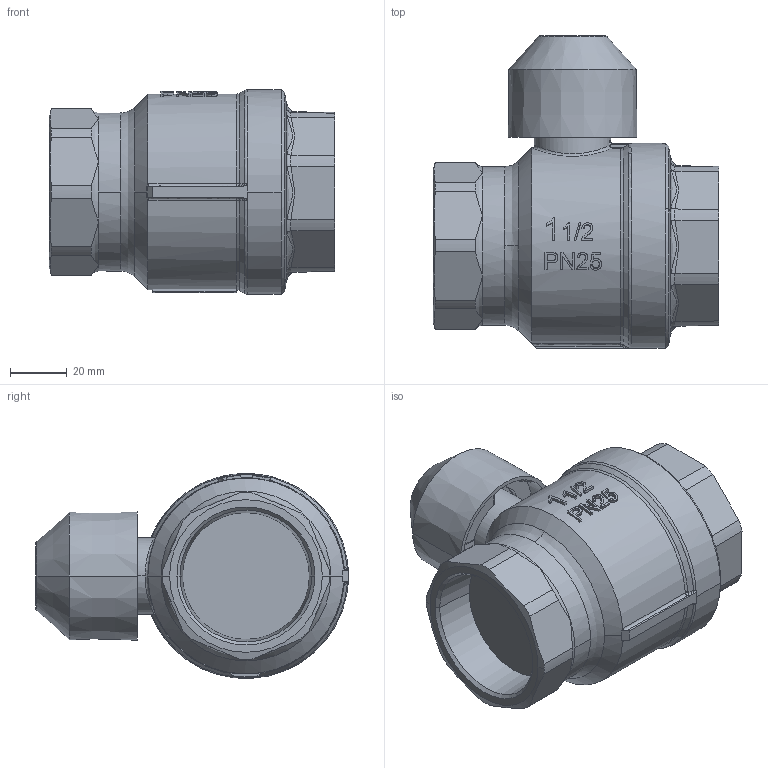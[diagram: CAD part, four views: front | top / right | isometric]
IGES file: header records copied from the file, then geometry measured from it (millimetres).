
Global section: file name: No Iges File Name specified; native system: AutoDesk Inventor R12.0; preprocessor: AutoDesk Inventor Iges Exporter R12.0; date: 20110214.145226; units: millimetre
Bounding box: 100.92 x 110.65 x 72.41 mm (x, y, z)
Volume: 318961.1 mm3; surface area: 46628.3 mm2
Topology: 1 solids, 2 shells, 634 faces, 1738 edges, 1122 vertices
Faces by surface type: plane 299, bspline 144, cylinder 62, cone 60, revolution 56, torus 13
